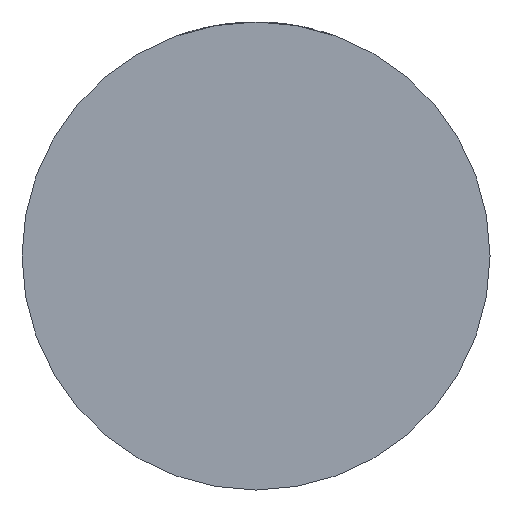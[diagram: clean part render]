
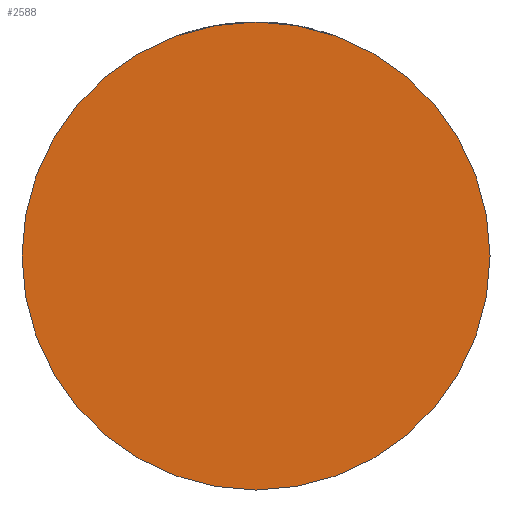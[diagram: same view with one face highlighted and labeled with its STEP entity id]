
A CAD part, front view. The second image highlights one B-rep face of the part: STEP entity #2588.
In plain terms, the highlighted planar face has unit normal (0, -1, 0).
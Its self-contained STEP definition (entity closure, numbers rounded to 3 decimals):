
#149 = DIRECTION ( 'NONE',  ( 0., -1., 0. ) ) ;
#191 = DIRECTION ( 'NONE',  ( 1., 0., 0. ) ) ;
#254 = CARTESIAN_POINT ( 'NONE',  ( 0., -25., 0. ) ) ;
#808 = AXIS2_PLACEMENT_3D ( 'NONE', #2808, #1828, #2830 ) ;
#817 = VERTEX_POINT ( 'NONE', #2689 ) ;
#823 = DIRECTION ( 'NONE',  ( 1., 0., 0. ) ) ;
#1303 = CIRCLE ( 'NONE', #808, 29.5 ) ;
#1574 = DIRECTION ( 'NONE',  ( 0., -1., 0. ) ) ;
#1801 = EDGE_CURVE ( 'NONE', #3263, #817, #3425, .T. ) ;
#1826 = EDGE_LOOP ( 'NONE', ( #2316, #3248 ) ) ;
#1828 = DIRECTION ( 'NONE',  ( 0., -1., 0. ) ) ;
#2129 = EDGE_CURVE ( 'NONE', #817, #3263, #1303, .T. ) ;
#2316 = ORIENTED_EDGE ( 'NONE', *, *, #1801, .T. ) ;
#2588 = ADVANCED_FACE ( 'NONE', ( #3237 ), #3968, .T. ) ;
#2689 = CARTESIAN_POINT ( 'NONE',  ( 29.5, -25., 0. ) ) ;
#2808 = CARTESIAN_POINT ( 'NONE',  ( 0., -25., 0. ) ) ;
#2830 = DIRECTION ( 'NONE',  ( 1., 0., 0. ) ) ;
#3237 = FACE_OUTER_BOUND ( 'NONE', #1826, .T. ) ;
#3248 = ORIENTED_EDGE ( 'NONE', *, *, #2129, .T. ) ;
#3263 = VERTEX_POINT ( 'NONE', #3405 ) ;
#3405 = CARTESIAN_POINT ( 'NONE',  ( -29.5, -25., 0. ) ) ;
#3425 = CIRCLE ( 'NONE', #4202, 29.5 ) ;
#3439 = CARTESIAN_POINT ( 'NONE',  ( 0., -25., 0. ) ) ;
#3712 = AXIS2_PLACEMENT_3D ( 'NONE', #254, #1574, #191 ) ;
#3968 = PLANE ( 'NONE',  #3712 ) ;
#4202 = AXIS2_PLACEMENT_3D ( 'NONE', #3439, #149, #823 ) ;
